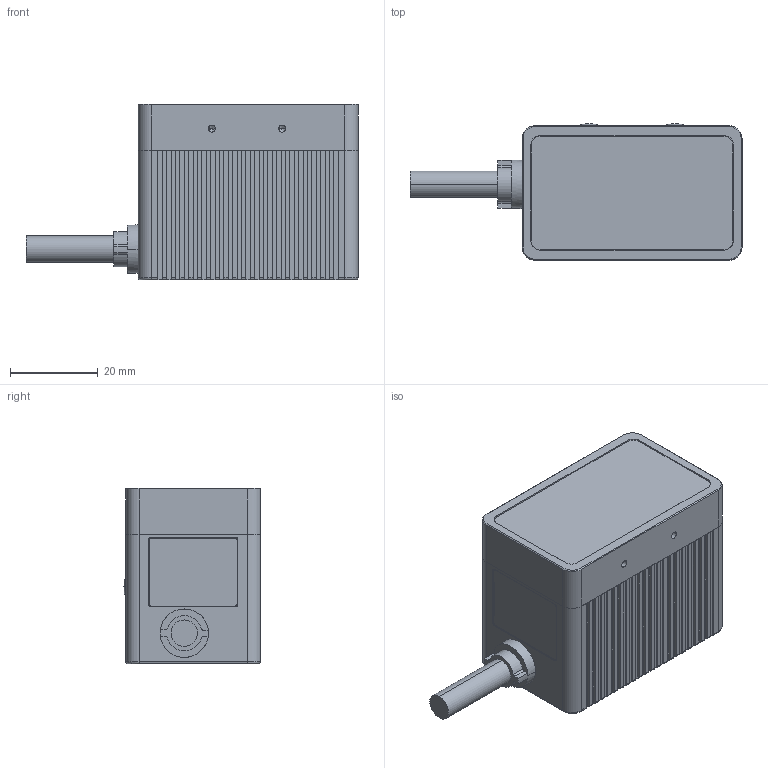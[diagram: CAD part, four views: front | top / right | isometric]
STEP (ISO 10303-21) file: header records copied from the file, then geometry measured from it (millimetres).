
FILE_DESCRIPTION((''),'2;1');
FILE_NAME('R-2000-C01_ASM','2023-12-26T08:54:37',('SZ4070'),(''),'CREO PARAMETRIC BY PTC INC, 2020354','CREO PARAMETRIC BY PTC INC, 2020354','');
FILE_SCHEMA(('AUTOMOTIVE_DESIGN { 1 0 10303 214 1 1 1 1 }'));
Length unit declared in the file: inch
Products named in the file (7): M10; 3_100; 4_1__100; R3000_LED1206_0927P1S_ASM; R-2000-M08; R-2000-INSIDE_ASM; R-2000-C01_ASM
Assembly tree (8 placements, depth 4):
  R-2000-C01_ASM
    R-2000-INSIDE_ASM
      M10
      R3000_LED1206_0927P1S_ASM
        3_100  x2
        4_1__100  x2
      R-2000-M08
Bounding box: 75.5 x 31.1 x 40 mm (x, y, z)
Surface area: 27831.1 mm2 (no closed solid volume)
Topology: 0 solids, 13 shells, 1247 faces, 3393 edges, 2203 vertices
Faces by surface type: plane 784, cylinder 301, extrusion 68, cone 32, torus 28, sphere 12, bspline 12, revolution 10
Entity records: 47729 total; most frequent: CARTESIAN_POINT 7952, ORIENTED_EDGE 6442, DIRECTION 6062, EDGE_CURVE 3221, VECTOR 2400, LINE 2332, VERTEX_POINT 2112, AXIS2_PLACEMENT_3D 1826
